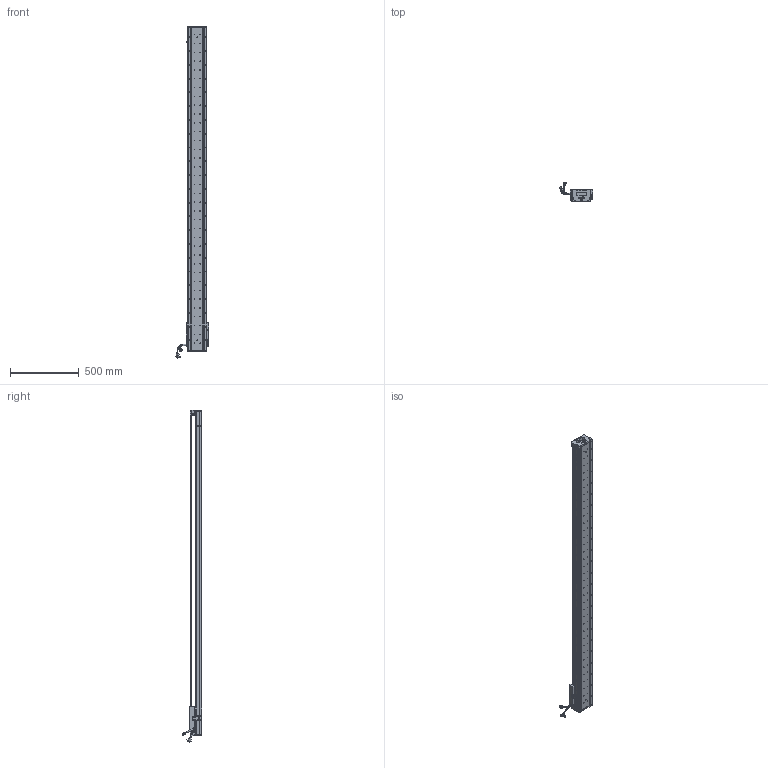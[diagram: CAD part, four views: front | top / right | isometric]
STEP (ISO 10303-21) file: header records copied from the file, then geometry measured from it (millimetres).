
FILE_DESCRIPTION (( 'STEP AP203' ), '1' );
FILE_NAME ('Z2-RY140D-1-L500-B-K.SLDASM_2100.step', '2021-05-17T07:48:33', ( '盈信电脑' ), ( '东莞市道滘镇水果街19号' ), 'SwSTEP 2.0', 'SolidWorks 2016', '' );
FILE_SCHEMA (( 'CONFIG_CONTROL_DESIGN' ));
Length unit declared in the file: millimetre
Products named in the file (36): SCREW-M1.6-3; SEAL-Part-1; SCREW-M1.7; 榋妏寠巭燃_暯_M2_2; SCALE-Part-2; Z-RY140詩湍奻揤裔; 140-Z-臏賑輸盄裔(21遴); SCREW-M1.7-1; 140雄赽晤鎢ん堤盄; HARNESS-Part-1; PSLH080_PSLF2; SCREW-M1.6; Z-140詩湍傷裔啣; HARNESS; SCALE; SCALE-Part-1; PBU_SHEET; COVER-Part-1; 140蚥薯蝶輸; SCREW-M1.6-2; Z2-RY140-L500直线电机模组底座_2100; LABEL-Part-1; 080黍杅芛假蚾釱21遴; Z2-RY140-L500詩湍100mm遵_2100; COVER; 覜茼ん672; HARNESS-Part-2; SHIELDPLATE; SCREW-M1.6-1; SEAL; HOLDER0; LABEL; Z-RY140感应器672光电感应片; Z2-RY140D-1-L500-B-K.SLDASM_2100; Z2-RY140圉猾敕臏賑輸(21遴); Z-RY140詩湍狟揤裔
Assembly tree (41 placements, depth 4):
  Z2-RY140D-1-L500-B-K.SLDASM_2100
    Z2-RY140-L500直线电机模组底座_2100
    Z-RY140感应器672光电感应片
    Z2-RY140圉猾敕臏賑輸(21遴)
    覜茼ん672  x3
    Z2-RY140-L500詩湍100mm遵_2100
    PSLH080_PSLF2
      SCALE
        SCALE-Part-1
        SCALE-Part-2
      HARNESS
        HARNESS-Part-1
        HARNESS-Part-2
      LABEL
        LABEL-Part-1
      COVER
        COVER-Part-1
      SEAL
        SEAL-Part-1
      榋妏寠巭燃_暯_M2_2
      SHIELDPLATE
      SCREW-M1.7
      SCREW-M1.7-1
      PBU_SHEET
      SCREW-M1.6
      SCREW-M1.6-1
      SCREW-M1.6-2
      SCREW-M1.6-3
      HOLDER0
    080黍杅芛假蚾釱21遴
    140-Z-臏賑輸盄裔(21遴)
    Z-140詩湍傷裔啣  x2
    Z-RY140詩湍狟揤裔  x2
    Z-RY140詩湍奻揤裔  x2
    140蚥薯蝶輸  x2
    140雄赽晤鎢ん堤盄
Bounding box: 239.84 x 143.77 x 2410.87 mm (x, y, z)
Volume: 7634620.1 mm3; surface area: 2006022.3 mm2
Topology: 36 solids, 36 shells, 3890 faces, 10542 edges, 6679 vertices
Faces by surface type: cylinder 2064, plane 1324, cone 370, torus 79, bspline 53
Entity records: 122290 total; most frequent: CARTESIAN_POINT 34203, ORIENTED_EDGE 18052, DIRECTION 16846, EDGE_CURVE 9026, AXIS2_PLACEMENT_3D 6258, VERTEX_POINT 5847, LINE 4330, VECTOR 4330
